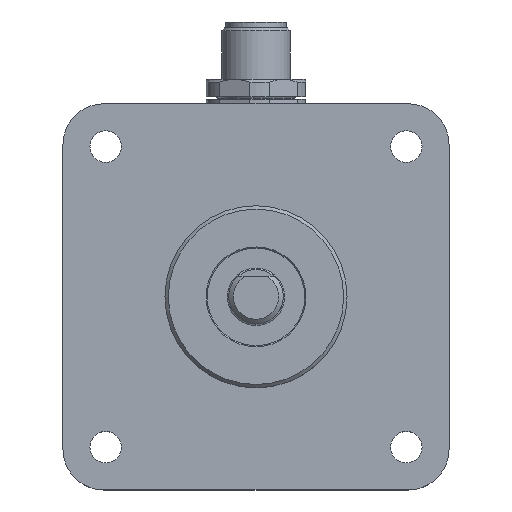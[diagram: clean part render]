
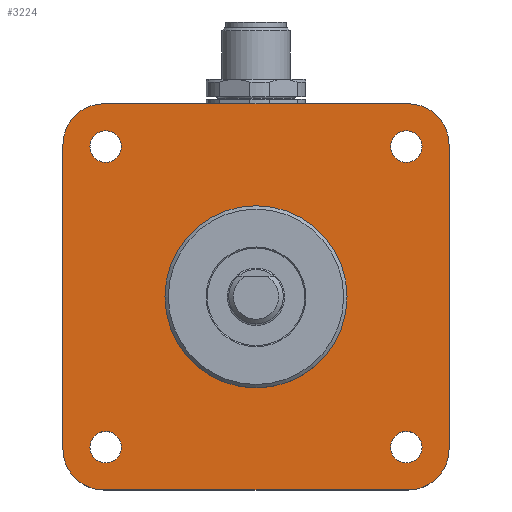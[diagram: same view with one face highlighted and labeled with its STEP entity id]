
A CAD part, top view. The second image highlights one B-rep face of the part: STEP entity #3224.
In plain terms, the highlighted planar face has unit normal (0, 0, 1).
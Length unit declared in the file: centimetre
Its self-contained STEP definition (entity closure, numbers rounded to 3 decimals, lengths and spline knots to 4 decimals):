
#164=VECTOR('',#5190,1.);
#165=VECTOR('',#5193,1.);
#166=VECTOR('',#5196,1.);
#167=VECTOR('',#5199,1.);
#283=LINE('',#4089,#164);
#284=LINE('',#4094,#165);
#285=LINE('',#4098,#166);
#286=LINE('',#4102,#167);
#516=PLANE('',#3523);
#640=VERTEX_POINT('',#4080);
#641=VERTEX_POINT('',#4082);
#642=VERTEX_POINT('',#4084);
#643=VERTEX_POINT('',#4086);
#644=VERTEX_POINT('',#4088);
#645=VERTEX_POINT('',#4090);
#646=VERTEX_POINT('',#4091);
#647=VERTEX_POINT('',#4093);
#648=VERTEX_POINT('',#4095);
#649=VERTEX_POINT('',#4097);
#650=VERTEX_POINT('',#4099);
#651=VERTEX_POINT('',#4101);
#652=VERTEX_POINT('',#4103);
#952=CIRCLE('',#3524,1.5875);
#953=CIRCLE('',#3525,0.275);
#954=CIRCLE('',#3526,0.275);
#955=CIRCLE('',#3527,0.275);
#956=CIRCLE('',#3528,0.275);
#957=CIRCLE('',#3529,0.71);
#958=CIRCLE('',#3530,0.71);
#959=CIRCLE('',#3531,0.71);
#960=CIRCLE('',#3532,0.71);
#1202=EDGE_CURVE('',#640,#640,#952,.T.);
#1203=EDGE_CURVE('',#641,#641,#953,.T.);
#1204=EDGE_CURVE('',#642,#642,#954,.T.);
#1205=EDGE_CURVE('',#643,#643,#955,.T.);
#1206=EDGE_CURVE('',#644,#644,#956,.T.);
#1207=EDGE_CURVE('',#645,#646,#283,.T.);
#1208=EDGE_CURVE('',#646,#647,#957,.T.);
#1209=EDGE_CURVE('',#647,#648,#284,.T.);
#1210=EDGE_CURVE('',#648,#649,#958,.T.);
#1211=EDGE_CURVE('',#649,#650,#285,.T.);
#1212=EDGE_CURVE('',#650,#651,#959,.T.);
#1213=EDGE_CURVE('',#651,#652,#286,.T.);
#1214=EDGE_CURVE('',#652,#645,#960,.T.);
#1598=ORIENTED_EDGE('',*,*,#1202,.T.);
#1599=ORIENTED_EDGE('',*,*,#1203,.F.);
#1600=ORIENTED_EDGE('',*,*,#1204,.F.);
#1601=ORIENTED_EDGE('',*,*,#1205,.F.);
#1602=ORIENTED_EDGE('',*,*,#1206,.F.);
#1603=ORIENTED_EDGE('',*,*,#1207,.T.);
#1604=ORIENTED_EDGE('',*,*,#1208,.T.);
#1605=ORIENTED_EDGE('',*,*,#1209,.T.);
#1606=ORIENTED_EDGE('',*,*,#1210,.T.);
#1607=ORIENTED_EDGE('',*,*,#1211,.T.);
#1608=ORIENTED_EDGE('',*,*,#1212,.T.);
#1609=ORIENTED_EDGE('',*,*,#1213,.T.);
#1610=ORIENTED_EDGE('',*,*,#1214,.T.);
#2370=EDGE_LOOP('',(#1598));
#2371=EDGE_LOOP('',(#1599));
#2372=EDGE_LOOP('',(#1600));
#2373=EDGE_LOOP('',(#1601));
#2374=EDGE_LOOP('',(#1602));
#2375=EDGE_LOOP('',(#1603,#1604,#1605,#1606,#1607,#1608,#1609,#1610));
#2802=FACE_BOUND('',#2370,.T.);
#2803=FACE_BOUND('',#2371,.T.);
#2804=FACE_BOUND('',#2372,.T.);
#2805=FACE_BOUND('',#2373,.T.);
#2806=FACE_BOUND('',#2374,.T.);
#2807=FACE_BOUND('',#2375,.T.);
#3224=ADVANCED_FACE('',(#2802,#2803,#2804,#2805,#2806,#2807),#516,.T.);
#3523=AXIS2_PLACEMENT_3D('',#4078,#5179,$);
#3524=AXIS2_PLACEMENT_3D('',#4079,#5180,#5181);
#3525=AXIS2_PLACEMENT_3D('',#4081,#5182,#5183);
#3526=AXIS2_PLACEMENT_3D('',#4083,#5184,#5185);
#3527=AXIS2_PLACEMENT_3D('',#4085,#5186,#5187);
#3528=AXIS2_PLACEMENT_3D('',#4087,#5188,#5189);
#3529=AXIS2_PLACEMENT_3D('',#4092,#5191,#5192);
#3530=AXIS2_PLACEMENT_3D('',#4096,#5194,#5195);
#3531=AXIS2_PLACEMENT_3D('',#4100,#5197,#5198);
#3532=AXIS2_PLACEMENT_3D('',#4104,#5200,#5201);
#4078=CARTESIAN_POINT('',(0.,0.,
0.));
#4079=CARTESIAN_POINT('',(0.,0.,0.));
#4080=CARTESIAN_POINT('',(1.5875,0.,0.));
#4081=CARTESIAN_POINT('',(2.62,-2.62,0.));
#4082=CARTESIAN_POINT('',(2.895,-2.62,0.));
#4083=CARTESIAN_POINT('',(2.62,2.62,0.));
#4084=CARTESIAN_POINT('',(2.895,2.62,0.));
#4085=CARTESIAN_POINT('',(-2.62,2.62,0.));
#4086=CARTESIAN_POINT('',(-2.345,2.62,0.));
#4087=CARTESIAN_POINT('',(-2.62,-2.62,0.));
#4088=CARTESIAN_POINT('',(-2.345,-2.62,0.));
#4089=CARTESIAN_POINT('',(-3.3655,2.6555,0.));
#4090=CARTESIAN_POINT('',(-3.3655,2.6555,0.));
#4091=CARTESIAN_POINT('',(-3.3655,-2.6555,0.));
#4092=CARTESIAN_POINT('',(-2.6555,-2.6555,0.));
#4093=CARTESIAN_POINT('',(-2.6555,-3.3655,0.));
#4094=CARTESIAN_POINT('',(-2.6555,-3.3655,0.));
#4095=CARTESIAN_POINT('',(2.6555,-3.3655,0.));
#4096=CARTESIAN_POINT('',(2.6555,-2.6555,0.));
#4097=CARTESIAN_POINT('',(3.3655,-2.6555,0.));
#4098=CARTESIAN_POINT('',(3.3655,-2.6555,0.));
#4099=CARTESIAN_POINT('',(3.3655,2.6555,0.));
#4100=CARTESIAN_POINT('',(2.6555,2.6555,0.));
#4101=CARTESIAN_POINT('',(2.6555,3.3655,0.));
#4102=CARTESIAN_POINT('',(2.6555,3.3655,0.));
#4103=CARTESIAN_POINT('',(-2.6555,3.3655,0.));
#4104=CARTESIAN_POINT('',(-2.6555,2.6555,0.));
#5179=DIRECTION('',(0.,0.,1.));
#5180=DIRECTION('',(0.,0.,-1.));
#5181=DIRECTION('',(1.588,0.,0.));
#5182=DIRECTION('',(0.,0.,1.));
#5183=DIRECTION('',(0.275,0.,0.));
#5184=DIRECTION('',(0.,0.,1.));
#5185=DIRECTION('',(0.275,0.,0.));
#5186=DIRECTION('',(0.,0.,1.));
#5187=DIRECTION('',(0.275,0.,0.));
#5188=DIRECTION('',(0.,0.,1.));
#5189=DIRECTION('',(0.275,0.,0.));
#5190=DIRECTION('',(0.,-1.,0.));
#5191=DIRECTION('',(0.,0.,1.));
#5192=DIRECTION('',(0.71,0.,0.));
#5193=DIRECTION('',(1.,0.,0.));
#5194=DIRECTION('',(0.,0.,1.));
#5195=DIRECTION('',(0.71,0.,0.));
#5196=DIRECTION('',(0.,1.,0.));
#5197=DIRECTION('',(0.,0.,1.));
#5198=DIRECTION('',(0.71,0.,0.));
#5199=DIRECTION('',(-1.,0.,0.));
#5200=DIRECTION('',(0.,0.,1.));
#5201=DIRECTION('',(0.71,0.,0.));
